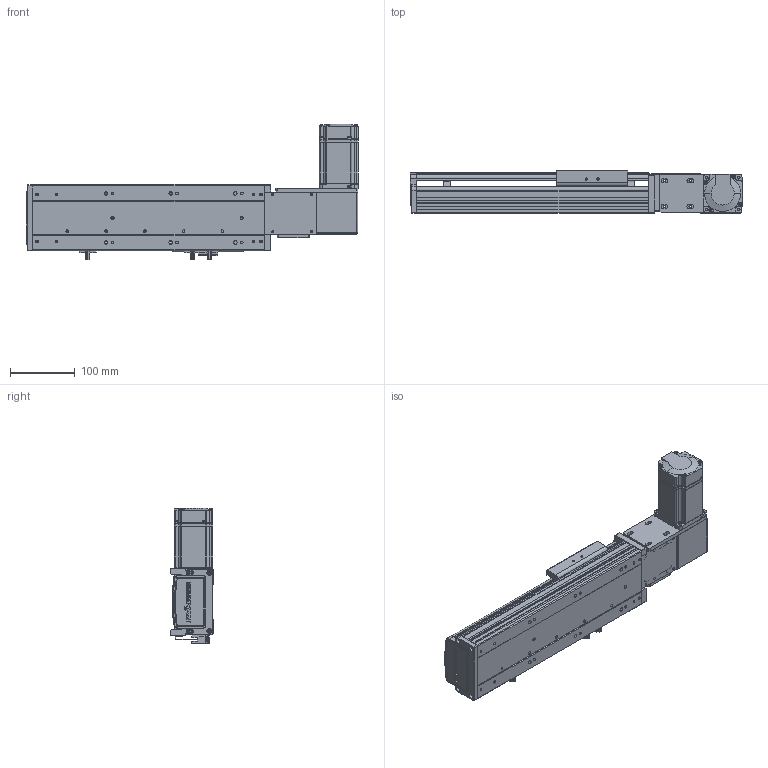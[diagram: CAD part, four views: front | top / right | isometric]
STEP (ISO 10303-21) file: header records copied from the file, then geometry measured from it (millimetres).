
FILE_DESCRIPTION (( 'STEP AP203' ), '1' );
FILE_NAME ('RY100-T-300-RK.SLDASM_150.step', '2024-04-25T08:21:25', ( '盈信电脑' ), ( '东莞市道滘镇水果街19号' ), 'SwSTEP 2.0', 'SolidWorks 2016', '' );
FILE_SCHEMA (( 'CONFIG_CONTROL_DESIGN' ));
Length unit declared in the file: millimetre
Products named in the file (15): RY100-T翋肮祭謫裔啣2; RY100-T肮祭謫臏賑輸; 1; 滅袉蝶18-10; 侂狟200W萇儂; RY100-T肮祭謫翋盓傅釱; RY100-T左右折电机安装板; 覜茼ん672; RY100-T-300-RK倰第菁釱_150; RY100-T-300-RK倰第奻裔_150; RY100俋离覜茼え; RY80-T肮祭謫俋欶; RY100綴裔啣; RY100-T粣創揤踡裔; RY100-T-300-RK.SLDASM_150
Assembly tree (18 placements, depth 3):
  RY100-T-300-RK.SLDASM_150
    RY100-T-300-RK倰第菁釱_150
    RY100-T-300-RK倰第奻裔_150
    RY100-T肮祭謫臏賑輸
    RY100綴裔啣
    覜茼ん672  x3
    RY100俋离覜茼え
    RY100-T肮祭謫翋盓傅釱
    RY100-T左右折电机安装板
    侂狟200W萇儂
      1
    RY100-T粣創揤踡裔
    滅袉蝶18-10  x2
    RY100-T翋肮祭謫裔啣2  x2
    RY80-T肮祭謫俋欶
Bounding box: 514 x 66 x 209.7 mm (x, y, z)
Volume: 1270713.9 mm3; surface area: 474082.9 mm2
Topology: 17 solids, 17 shells, 2067 faces, 5707 edges, 3705 vertices
Faces by surface type: plane 1173, cylinder 693, cone 123, bspline 78
Entity records: 64957 total; most frequent: CARTESIAN_POINT 15403, ORIENTED_EDGE 10150, DIRECTION 9671, EDGE_CURVE 5075, VECTOR 3391, LINE 3391, VERTEX_POINT 3341, AXIS2_PLACEMENT_3D 3140
